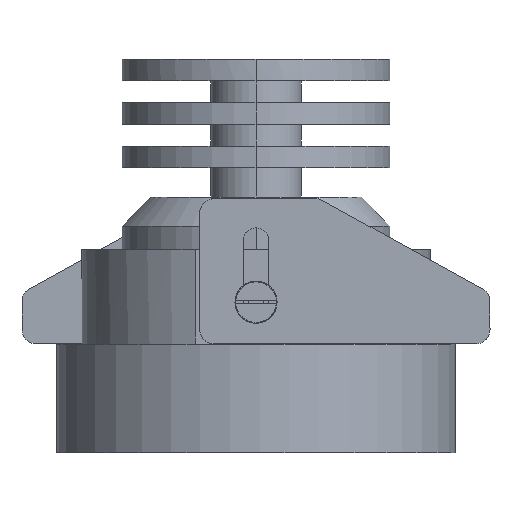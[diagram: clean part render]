
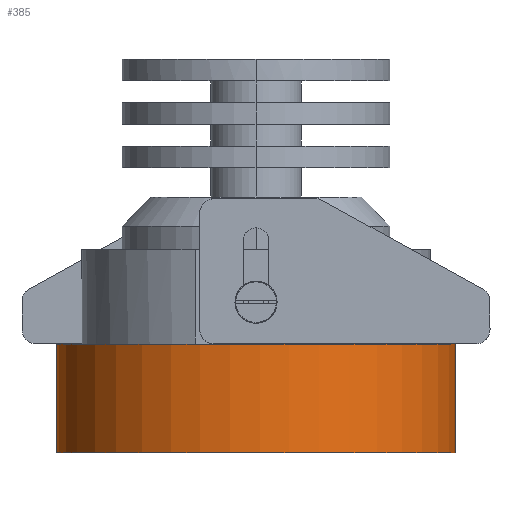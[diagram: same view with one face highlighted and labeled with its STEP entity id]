
A CAD part, left-side view. The second image highlights one B-rep face of the part: STEP entity #385.
In plain terms, the highlighted free-form (B-spline) face has degree [1, 2] with [2, 5] control points.
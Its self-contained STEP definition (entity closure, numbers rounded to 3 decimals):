
#385=ADVANCED_FACE('',(#714),#10899,.T.);
#714=FACE_OUTER_BOUND('',#1079,.T.);
#1079=EDGE_LOOP('',(#2681,#2682,#2683,#2684));
#2681=ORIENTED_EDGE('',*,*,#8154,.F.);
#2682=ORIENTED_EDGE('',*,*,#8195,.T.);
#2683=ORIENTED_EDGE('',*,*,#8152,.F.);
#2684=ORIENTED_EDGE('',*,*,#8184,.F.);
#3266=(
BOUNDED_CURVE()
B_SPLINE_CURVE(2,(#28813,#28814,#28815,#28816,#28817),.UNSPECIFIED.,.F.,
 .F.)
B_SPLINE_CURVE_WITH_KNOTS((3,2,3),(37.514,56.271,75.029),
 .UNSPECIFIED.)
CURVE()
GEOMETRIC_REPRESENTATION_ITEM()
RATIONAL_B_SPLINE_CURVE((1.,0.707,1.,0.707,1.))
REPRESENTATION_ITEM('')
);
#3267=(
BOUNDED_CURVE()
B_SPLINE_CURVE(2,(#28818,#28819,#28820,#28821,#28822),.UNSPECIFIED.,.F.,
 .F.)
B_SPLINE_CURVE_WITH_KNOTS((3,2,3),(37.514,56.271,75.029),
 .UNSPECIFIED.)
CURVE()
GEOMETRIC_REPRESENTATION_ITEM()
RATIONAL_B_SPLINE_CURVE((1.,0.707,1.,0.707,1.))
REPRESENTATION_ITEM('')
);
#3283=(
BOUNDED_CURVE()
B_SPLINE_CURVE(2,(#28924,#28925,#28926,#28927,#28928),.UNSPECIFIED.,.F.,
 .F.)
B_SPLINE_CURVE_WITH_KNOTS((3,2,3),(37.514,56.271,75.029),
 .UNSPECIFIED.)
CURVE()
GEOMETRIC_REPRESENTATION_ITEM()
RATIONAL_B_SPLINE_CURVE((1.,0.707,1.,0.707,1.))
REPRESENTATION_ITEM('')
);
#4812=PCURVE('',#10888,#6440);
#4814=PCURVE('',#10888,#6442);
#4859=PCURVE('',#10693,#6487);
#4881=PCURVE('',#10899,#6509);
#4882=PCURVE('',#10899,#6510);
#4883=PCURVE('',#10899,#6511);
#4884=PCURVE('',#10899,#6512);
#4888=PCURVE('',#10900,#6516);
#6440=DEFINITIONAL_REPRESENTATION('',(#9973),#29020);
#6442=DEFINITIONAL_REPRESENTATION('',(#9976),#29020);
#6487=DEFINITIONAL_REPRESENTATION('',(#3267),#29020);
#6509=DEFINITIONAL_REPRESENTATION('',(#10049),#29020);
#6510=DEFINITIONAL_REPRESENTATION('',(#10050),#29020);
#6511=DEFINITIONAL_REPRESENTATION('',(#10051),#29020);
#6512=DEFINITIONAL_REPRESENTATION('',(#10052),#29020);
#6516=DEFINITIONAL_REPRESENTATION('',(#10056),#29020);
#7324=SURFACE_CURVE('',#9972,(#4812,#4883),.PCURVE_S1.);
#7326=SURFACE_CURVE('',#9975,(#4814,#4881),.PCURVE_S1.);
#7356=SURFACE_CURVE('',#3266,(#4859,#4884),.PCURVE_S1.);
#7367=SURFACE_CURVE('',#3283,(#4882,#4888),.PCURVE_S1.);
#8152=EDGE_CURVE('',#10551,#10550,#7324,.T.);
#8154=EDGE_CURVE('',#10569,#10568,#7326,.T.);
#8184=EDGE_CURVE('',#10568,#10551,#7356,.T.);
#8195=EDGE_CURVE('',#10569,#10550,#7367,.T.);
#9972=B_SPLINE_CURVE_WITH_KNOTS('',1,(#28601,#28602),.UNSPECIFIED.,.F.,
 .F.,(2,2),(123.506,131.722),.UNSPECIFIED.);
#9973=B_SPLINE_CURVE_WITH_KNOTS('',1,(#28603,#28604),.UNSPECIFIED.,.F.,
 .F.,(2,2),(123.506,131.722),.UNSPECIFIED.);
#9975=B_SPLINE_CURVE_WITH_KNOTS('',1,(#28612,#28613),.UNSPECIFIED.,.F.,
 .F.,(2,2),(-131.722,-123.506),.UNSPECIFIED.);
#9976=B_SPLINE_CURVE_WITH_KNOTS('',1,(#28614,#28615),.UNSPECIFIED.,.F.,
 .F.,(2,2),(-131.722,-123.506),.UNSPECIFIED.);
#10049=B_SPLINE_CURVE_WITH_KNOTS('',1,(#28922,#28923),.UNSPECIFIED.,.F.,
 .F.,(2,2),(-131.722,-123.506),.UNSPECIFIED.);
#10050=B_SPLINE_CURVE_WITH_KNOTS('',1,(#28929,#28930),.UNSPECIFIED.,.F.,
 .F.,(2,2),(37.514,75.029),.UNSPECIFIED.);
#10051=B_SPLINE_CURVE_WITH_KNOTS('',1,(#28931,#28932),.UNSPECIFIED.,.F.,
 .F.,(2,2),(123.506,131.722),.UNSPECIFIED.);
#10052=B_SPLINE_CURVE_WITH_KNOTS('',1,(#28933,#28934),.UNSPECIFIED.,.F.,
 .F.,(2,2),(37.514,75.029),.UNSPECIFIED.);
#10056=B_SPLINE_CURVE_WITH_KNOTS('',1,(#28946,#28947),.UNSPECIFIED.,.F.,
 .F.,(2,2),(37.514,75.029),.UNSPECIFIED.);
#10550=VERTEX_POINT('',#28526);
#10551=VERTEX_POINT('',#28527);
#10568=VERTEX_POINT('',#28544);
#10569=VERTEX_POINT('',#28545);
#10693=B_SPLINE_SURFACE_WITH_KNOTS('',1,1,((#28399,#28400),(#28401,#28402)),
 .UNSPECIFIED.,.F.,.F.,.F.,(2,2),(2,2),(-0.55,55.554),
(-28.052,28.052),.UNSPECIFIED.);
#10888=(
BOUNDED_SURFACE()
B_SPLINE_SURFACE(1,2,((#28295,#28296,#28297,#28298,#28299),(#28300,#28301,
#28302,#28303,#28304)),.UNSPECIFIED.,.F.,.F.,.F.)
B_SPLINE_SURFACE_WITH_KNOTS((2,2),(3,2,3),(123.506,131.722),
(0.,18.757,37.514),.UNSPECIFIED.)
GEOMETRIC_REPRESENTATION_ITEM()
RATIONAL_B_SPLINE_SURFACE(((1.,0.707,1.,0.707,1.),
(1.,0.707,1.,0.707,1.)))
REPRESENTATION_ITEM('')
SURFACE()
);
#10899=(
BOUNDED_SURFACE()
B_SPLINE_SURFACE(1,2,((#28441,#28442,#28443,#28444,#28445),(#28446,#28447,
#28448,#28449,#28450)),.UNSPECIFIED.,.F.,.F.,.F.)
B_SPLINE_SURFACE_WITH_KNOTS((2,2),(3,2,3),(123.506,131.722),
(37.514,56.271,75.029),.UNSPECIFIED.)
GEOMETRIC_REPRESENTATION_ITEM()
RATIONAL_B_SPLINE_SURFACE(((1.,0.707,1.,0.707,1.),
(1.,0.707,1.,0.707,1.)))
REPRESENTATION_ITEM('')
SURFACE()
);
#10900=(
BOUNDED_SURFACE()
B_SPLINE_SURFACE(1,2,((#28451,#28452,#28453,#28454,#28455),(#28456,#28457,
#28458,#28459,#28460)),.UNSPECIFIED.,.F.,.F.,.F.)
B_SPLINE_SURFACE_WITH_KNOTS((2,2),(3,2,3),(131.722,139.937),
(37.514,56.271,75.029),.UNSPECIFIED.)
GEOMETRIC_REPRESENTATION_ITEM()
RATIONAL_B_SPLINE_SURFACE(((1.,0.707,1.,0.707,1.),
(1.,0.707,1.,0.707,1.)))
REPRESENTATION_ITEM('')
SURFACE()
);
#28295=CARTESIAN_POINT('',(0.,-27.502,15.));
#28296=CARTESIAN_POINT('',(27.502,-27.502,15.));
#28297=CARTESIAN_POINT('',(27.502,0.,15.));
#28298=CARTESIAN_POINT('',(27.502,27.502,15.));
#28299=CARTESIAN_POINT('',(0.,27.502,15.));
#28300=CARTESIAN_POINT('',(0.,-27.502,0.));
#28301=CARTESIAN_POINT('',(27.502,-27.502,0.));
#28302=CARTESIAN_POINT('',(27.502,0.,0.));
#28303=CARTESIAN_POINT('',(27.502,27.502,0.));
#28304=CARTESIAN_POINT('',(0.,27.502,0.));
#28399=CARTESIAN_POINT('',(28.052,-28.052,15.));
#28400=CARTESIAN_POINT('',(-28.052,-28.052,15.));
#28401=CARTESIAN_POINT('',(28.052,28.052,15.));
#28402=CARTESIAN_POINT('',(-28.052,28.052,15.));
#28441=CARTESIAN_POINT('',(0.,27.502,15.));
#28442=CARTESIAN_POINT('',(-27.502,27.502,15.));
#28443=CARTESIAN_POINT('',(-27.502,0.,15.));
#28444=CARTESIAN_POINT('',(-27.502,-27.502,15.));
#28445=CARTESIAN_POINT('',(0.,-27.502,15.));
#28446=CARTESIAN_POINT('',(0.,27.502,0.));
#28447=CARTESIAN_POINT('',(-27.502,27.502,0.));
#28448=CARTESIAN_POINT('',(-27.502,0.,0.));
#28449=CARTESIAN_POINT('',(-27.502,-27.502,0.));
#28450=CARTESIAN_POINT('',(0.,-27.502,0.));
#28451=CARTESIAN_POINT('',(0.,27.502,0.));
#28452=CARTESIAN_POINT('',(-27.502,27.502,0.));
#28453=CARTESIAN_POINT('',(-27.502,0.,0.));
#28454=CARTESIAN_POINT('',(-27.502,-27.502,0.));
#28455=CARTESIAN_POINT('',(0.,-27.502,0.));
#28456=CARTESIAN_POINT('',(0.,26.502,0.));
#28457=CARTESIAN_POINT('',(-26.502,26.502,0.));
#28458=CARTESIAN_POINT('',(-26.502,0.,0.));
#28459=CARTESIAN_POINT('',(-26.502,-26.502,0.));
#28460=CARTESIAN_POINT('',(0.,-26.502,0.));
#28526=CARTESIAN_POINT('',(0.,-27.502,0.));
#28527=CARTESIAN_POINT('',(0.,-27.502,15.));
#28544=CARTESIAN_POINT('',(0.,27.502,15.));
#28545=CARTESIAN_POINT('',(0.,27.502,0.));
#28601=CARTESIAN_POINT('',(0.,-27.502,15.));
#28602=CARTESIAN_POINT('',(0.,-27.502,0.));
#28603=CARTESIAN_POINT('',(123.506,0.));
#28604=CARTESIAN_POINT('',(131.722,0.));
#28612=CARTESIAN_POINT('',(0.,27.502,0.));
#28613=CARTESIAN_POINT('',(0.,27.502,15.));
#28614=CARTESIAN_POINT('',(131.722,37.514));
#28615=CARTESIAN_POINT('',(123.506,37.514));
#28813=CARTESIAN_POINT('',(0.,27.502,15.));
#28814=CARTESIAN_POINT('',(-27.502,27.502,15.));
#28815=CARTESIAN_POINT('',(-27.502,0.,15.));
#28816=CARTESIAN_POINT('',(-27.502,-27.502,15.));
#28817=CARTESIAN_POINT('',(0.,-27.502,15.));
#28818=CARTESIAN_POINT('',(55.004,0.));
#28819=CARTESIAN_POINT('',(55.004,27.502));
#28820=CARTESIAN_POINT('',(27.502,27.502));
#28821=CARTESIAN_POINT('',(0.,27.502));
#28822=CARTESIAN_POINT('',(0.,0.));
#28922=CARTESIAN_POINT('',(131.722,37.514));
#28923=CARTESIAN_POINT('',(123.506,37.514));
#28924=CARTESIAN_POINT('',(0.,27.502,0.));
#28925=CARTESIAN_POINT('',(-27.502,27.502,0.));
#28926=CARTESIAN_POINT('',(-27.502,0.,0.));
#28927=CARTESIAN_POINT('',(-27.502,-27.502,0.));
#28928=CARTESIAN_POINT('',(0.,-27.502,0.));
#28929=CARTESIAN_POINT('',(131.722,37.514));
#28930=CARTESIAN_POINT('',(131.722,75.029));
#28931=CARTESIAN_POINT('',(123.506,75.029));
#28932=CARTESIAN_POINT('',(131.722,75.029));
#28933=CARTESIAN_POINT('',(123.506,37.514));
#28934=CARTESIAN_POINT('',(123.506,75.029));
#28946=CARTESIAN_POINT('',(131.722,37.514));
#28947=CARTESIAN_POINT('',(131.722,75.029));
#29020=(
GEOMETRIC_REPRESENTATION_CONTEXT(2)
PARAMETRIC_REPRESENTATION_CONTEXT()
REPRESENTATION_CONTEXT('pspace','')
);
